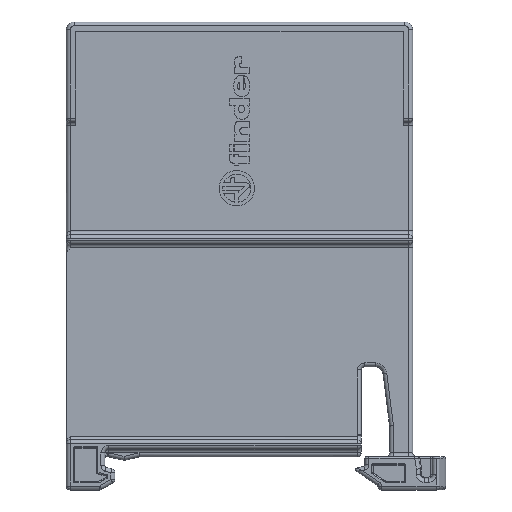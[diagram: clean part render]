
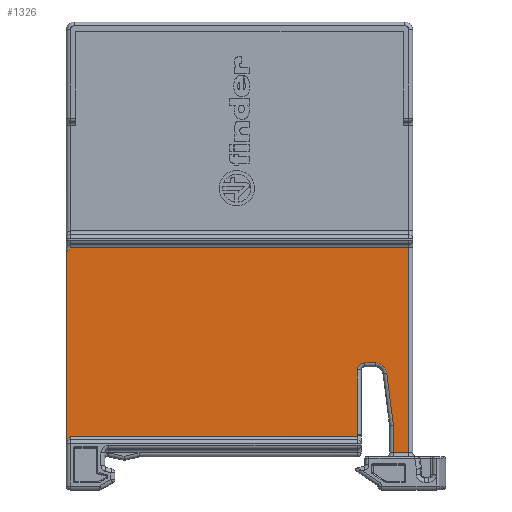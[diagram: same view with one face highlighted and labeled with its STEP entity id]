
A CAD part, top view. The second image highlights one B-rep face of the part: STEP entity #1326.
In plain terms, the highlighted planar face has unit normal (0, 0, 1).
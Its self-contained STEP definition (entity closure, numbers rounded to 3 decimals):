
#1326 = ADVANCED_FACE( '', ( #2882 ), #2883, .F. );
#2882 = FACE_OUTER_BOUND( '', #5232, .T. );
#2883 = PLANE( '', #5233 );
#5232 = EDGE_LOOP( '', ( #9503, #9504, #9505, #9506, #9507, #9508, #9509, #9510, #9511, #9512, #9513, #9514, #9515, #9516 ) );
#5233 = AXIS2_PLACEMENT_3D( '', #9517, #9518, #9519 );
#9503 = ORIENTED_EDGE( '', *, *, #12939, .T. );
#9504 = ORIENTED_EDGE( '', *, *, #12763, .T. );
#9505 = ORIENTED_EDGE( '', *, *, #13038, .T. );
#9506 = ORIENTED_EDGE( '', *, *, #11685, .T. );
#9507 = ORIENTED_EDGE( '', *, *, #13039, .T. );
#9508 = ORIENTED_EDGE( '', *, *, #13040, .T. );
#9509 = ORIENTED_EDGE( '', *, *, #12717, .T. );
#9510 = ORIENTED_EDGE( '', *, *, #12355, .T. );
#9511 = ORIENTED_EDGE( '', *, *, #12436, .T. );
#9512 = ORIENTED_EDGE( '', *, *, #13041, .T. );
#9513 = ORIENTED_EDGE( '', *, *, #12768, .T. );
#9514 = ORIENTED_EDGE( '', *, *, #12496, .T. );
#9515 = ORIENTED_EDGE( '', *, *, #11968, .F. );
#9516 = ORIENTED_EDGE( '', *, *, #13042, .T. );
#9517 = CARTESIAN_POINT( '', ( 20.4, 2., 5.25 ) );
#9518 = DIRECTION( '', ( 0., 0., -1. ) );
#9519 = DIRECTION( '', ( -1., 0., 0. ) );
#11685 = EDGE_CURVE( '', #13667, #13668, #13669, .T. );
#11968 = EDGE_CURVE( '', #14160, #14162, #14163, .T. );
#12355 = EDGE_CURVE( '', #14754, #13863, #14755, .T. );
#12436 = EDGE_CURVE( '', #13863, #14604, #14872, .T. );
#12496 = EDGE_CURVE( '', #14955, #14162, #14956, .F. );
#12717 = EDGE_CURVE( '', #15258, #14754, #15261, .T. );
#12763 = EDGE_CURVE( '', #14448, #15317, #15319, .F. );
#12768 = EDGE_CURVE( '', #15324, #14955, #15325, .T. );
#12939 = EDGE_CURVE( '', #15542, #14448, #15544, .F. );
#13038 = EDGE_CURVE( '', #15317, #13667, #15664, .T. );
#13039 = EDGE_CURVE( '', #13668, #15665, #15666, .T. );
#13040 = EDGE_CURVE( '', #15665, #15258, #15667, .T. );
#13041 = EDGE_CURVE( '', #14604, #15324, #15668, .T. );
#13042 = EDGE_CURVE( '', #14160, #15542, #15669, .T. );
#13667 = VERTEX_POINT( '', #16395 );
#13668 = VERTEX_POINT( '', #16396 );
#13669 = CIRCLE( '', #16397, 1. );
#13863 = VERTEX_POINT( '', #16697 );
#14160 = VERTEX_POINT( '', #17123 );
#14162 = VERTEX_POINT( '', #17125 );
#14163 = LINE( '', #17126, #17127 );
#14448 = VERTEX_POINT( '', #17499 );
#14604 = VERTEX_POINT( '', #17766 );
#14754 = VERTEX_POINT( '', #17957 );
#14755 = LINE( '', #17958, #17959 );
#14872 = LINE( '', #18178, #18179 );
#14955 = VERTEX_POINT( '', #18288 );
#14956 = B_SPLINE_CURVE_WITH_KNOTS( '', 3, ( #18289, #18290, #18291, #18292, #18293, #18294 ), .UNSPECIFIED., .F., .F., ( 4, 2, 4 ), ( 0., 0.001, 0.001 ), .UNSPECIFIED. );
#15258 = VERTEX_POINT( '', #18875 );
#15261 = LINE( '', #18879, #18880 );
#15317 = VERTEX_POINT( '', #18943 );
#15319 = B_SPLINE_CURVE_WITH_KNOTS( '', 3, ( #18945, #18946, #18947, #18948, #18949, #18950, #18951, #18952, #18953, #18954, #18955, #18956 ), .UNSPECIFIED., .F., .F., ( 4, 2, 2, 2, 2, 4 ), ( 0., 0., 0., 0., 0., 0. ), .UNSPECIFIED. );
#15324 = VERTEX_POINT( '', #19004 );
#15325 = LINE( '', #19005, #19006 );
#15542 = VERTEX_POINT( '', #19333 );
#15544 = LINE( '', #19335, #19336 );
#15664 = LINE( '', #19507, #19508 );
#15665 = VERTEX_POINT( '', #19509 );
#15666 = LINE( '', #19510, #19511 );
#15667 = CIRCLE( '', #19512, 1.5 );
#15668 = LINE( '', #19513, #19514 );
#15669 = B_SPLINE_CURVE_WITH_KNOTS( '', 3, ( #19515, #19516, #19517, #19518, #19519, #19520 ), .UNSPECIFIED., .F., .F., ( 4, 2, 4 ), ( 0., 0.001, 0.001 ), .UNSPECIFIED. );
#16395 = CARTESIAN_POINT( '', ( 35.825, -43.078, 5.25 ) );
#16396 = CARTESIAN_POINT( '', ( 36.8, -42.3, 5.25 ) );
#16397 = AXIS2_PLACEMENT_3D( '', #20552, #20553, #20554 );
#16697 = CARTESIAN_POINT( '', ( 40.5, -54., 5.25 ) );
#17123 = CARTESIAN_POINT( '', ( -2., -52.666, 5.25 ) );
#17125 = CARTESIAN_POINT( '', ( -2., -28.216, 5.25 ) );
#17126 = CARTESIAN_POINT( '', ( -2., -54.5, 5.25 ) );
#17127 = VECTOR( '', #20937, 1000. );
#17499 = CARTESIAN_POINT( '', ( 35.8, -51.8, 5.25 ) );
#17766 = CARTESIAN_POINT( '', ( 42.5, -54., 5.25 ) );
#17957 = CARTESIAN_POINT( '', ( 40.5, -50.469, 5.25 ) );
#17958 = CARTESIAN_POINT( '', ( 40.5, -54.5, 5.25 ) );
#17959 = VECTOR( '', #21487, 1000. );
#18178 = CARTESIAN_POINT( '', ( 20.4, -54., 5.25 ) );
#18179 = VECTOR( '', #21594, 1000. );
#18288 = CARTESIAN_POINT( '', ( -1.5, -27.35, 5.25 ) );
#18289 = CARTESIAN_POINT( '', ( -2., -28.216, 5.25 ) );
#18290 = CARTESIAN_POINT( '', ( -2., -28.043, 5.25 ) );
#18291 = CARTESIAN_POINT( '', ( -1.933, -27.879, 5.25 ) );
#18292 = CARTESIAN_POINT( '', ( -1.744, -27.594, 5.25 ) );
#18293 = CARTESIAN_POINT( '', ( -1.621, -27.471, 5.25 ) );
#18294 = CARTESIAN_POINT( '', ( -1.5, -27.35, 5.25 ) );
#18875 = CARTESIAN_POINT( '', ( 39.643, -43.614, 5.25 ) );
#18879 = CARTESIAN_POINT( '', ( 33.733, 3.667, 5.25 ) );
#18880 = VECTOR( '', #21972, 1000. );
#18943 = CARTESIAN_POINT( '', ( 35.825, -51.578, 5.25 ) );
#18945 = CARTESIAN_POINT( '', ( 35.825, -51.578, 5.25 ) );
#18946 = CARTESIAN_POINT( '', ( 35.825, -51.587, 5.25 ) );
#18947 = CARTESIAN_POINT( '', ( 35.825, -51.596, 5.25 ) );
#18948 = CARTESIAN_POINT( '', ( 35.824, -51.615, 5.25 ) );
#18949 = CARTESIAN_POINT( '', ( 35.823, -51.624, 5.25 ) );
#18950 = CARTESIAN_POINT( '', ( 35.821, -51.652, 5.25 ) );
#18951 = CARTESIAN_POINT( '', ( 35.819, -51.671, 5.25 ) );
#18952 = CARTESIAN_POINT( '', ( 35.814, -51.708, 5.25 ) );
#18953 = CARTESIAN_POINT( '', ( 35.812, -51.726, 5.25 ) );
#18954 = CARTESIAN_POINT( '', ( 35.806, -51.763, 5.25 ) );
#18955 = CARTESIAN_POINT( '', ( 35.803, -51.782, 5.25 ) );
#18956 = CARTESIAN_POINT( '', ( 35.8, -51.8, 5.25 ) );
#19004 = CARTESIAN_POINT( '', ( 42.5, -27.35, 5.25 ) );
#19005 = CARTESIAN_POINT( '', ( 20.4, -27.35, 5.25 ) );
#19006 = VECTOR( '', #22052, 1000. );
#19333 = CARTESIAN_POINT( '', ( -1.5, -51.8, 5.25 ) );
#19335 = CARTESIAN_POINT( '', ( 20.4, -51.8, 5.25 ) );
#19336 = VECTOR( '', #22289, 1000. );
#19507 = CARTESIAN_POINT( '', ( 35.825, 2., 5.25 ) );
#19508 = VECTOR( '', #22417, 1000. );
#19509 = CARTESIAN_POINT( '', ( 38.155, -42.3, 5.25 ) );
#19510 = CARTESIAN_POINT( '', ( 20.4, -42.3, 5.25 ) );
#19511 = VECTOR( '', #22418, 1000. );
#19512 = AXIS2_PLACEMENT_3D( '', #22419, #22420, #22421 );
#19513 = CARTESIAN_POINT( '', ( 42.5, 2., 5.25 ) );
#19514 = VECTOR( '', #22422, 1000. );
#19515 = CARTESIAN_POINT( '', ( -2., -52.666, 5.25 ) );
#19516 = CARTESIAN_POINT( '', ( -2., -52.493, 5.25 ) );
#19517 = CARTESIAN_POINT( '', ( -1.933, -52.329, 5.25 ) );
#19518 = CARTESIAN_POINT( '', ( -1.744, -52.044, 5.25 ) );
#19519 = CARTESIAN_POINT( '', ( -1.621, -51.921, 5.25 ) );
#19520 = CARTESIAN_POINT( '', ( -1.5, -51.8, 5.25 ) );
#20552 = CARTESIAN_POINT( '', ( 36.8, -43.3, 5.25 ) );
#20553 = DIRECTION( '', ( 0., 0., -1. ) );
#20554 = DIRECTION( '', ( -1., 0., 0. ) );
#20937 = DIRECTION( '', ( 0., 1., 0. ) );
#21487 = DIRECTION( '', ( 0., -1., 0. ) );
#21594 = DIRECTION( '', ( 1., 0., 0. ) );
#21972 = DIRECTION( '', ( 0.124, -0.992, 0. ) );
#22052 = DIRECTION( '', ( -1., 0., 0. ) );
#22289 = DIRECTION( '', ( -1., 0., 0. ) );
#22417 = DIRECTION( '', ( 0., 1., 0. ) );
#22418 = DIRECTION( '', ( 1., 0., 0. ) );
#22419 = CARTESIAN_POINT( '', ( 38.155, -43.8, 5.25 ) );
#22420 = DIRECTION( '', ( 0., 0., -1. ) );
#22421 = DIRECTION( '', ( -1., 0., 0. ) );
#22422 = DIRECTION( '', ( 0., 1., 0. ) );
